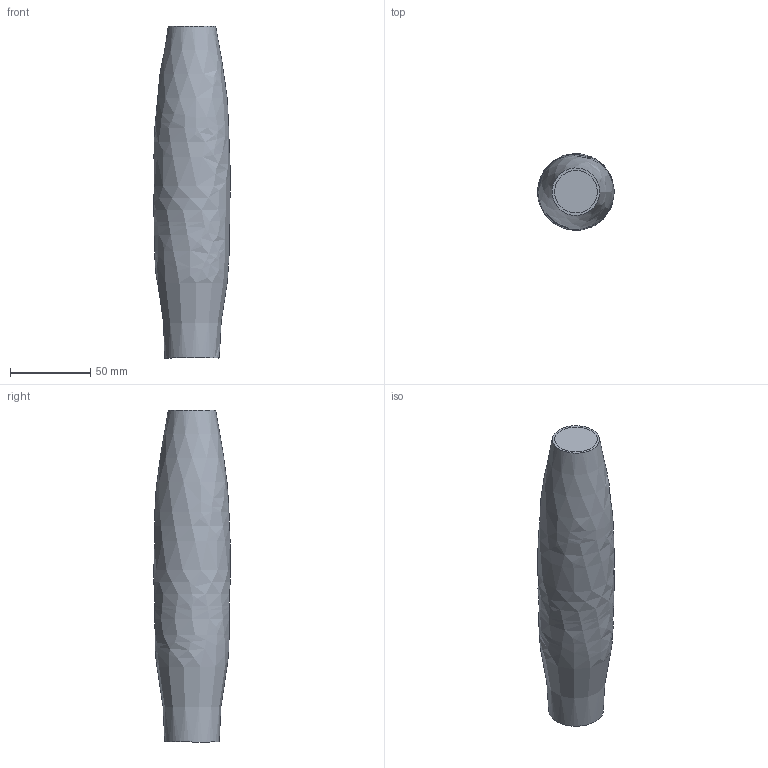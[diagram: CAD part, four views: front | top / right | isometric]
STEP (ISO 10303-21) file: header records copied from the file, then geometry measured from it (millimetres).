
FILE_DESCRIPTION(('Open CASCADE Model'),'2;1');
FILE_NAME('Open CASCADE Shape Model','2026-11-18T16:59:36',('Author'),( 'Open CASCADE'),'Open CASCADE STEP processor 7.9','Open CASCADE 7.9' ,'Unknown');
FILE_SCHEMA(('AUTOMOTIVE_DESIGN { 1 0 10303 214 1 1 1 1 }'));
Length unit declared in the file: millimetre
Products named in the file (1): Open CASCADE STEP translator 7.9 10
Bounding box: 47.84 x 47.77 x 207 mm (x, y, z)
Volume: 40150.9 mm3; surface area: 55156.7 mm2
Topology: 1 solids, 1 shells, 5 faces, 6 edges, 4 vertices
Faces by surface type: plane 3, bspline 2
Entity records: 855 total; most frequent: CARTESIAN_POINT 727, DIRECTION 15, ORIENTED_EDGE 12, PCURVE 12, DEFINITIONAL_REPRESENTATION 12, B_SPLINE_CURVE_WITH_KNOTS 9, LINE 7, VECTOR 7
